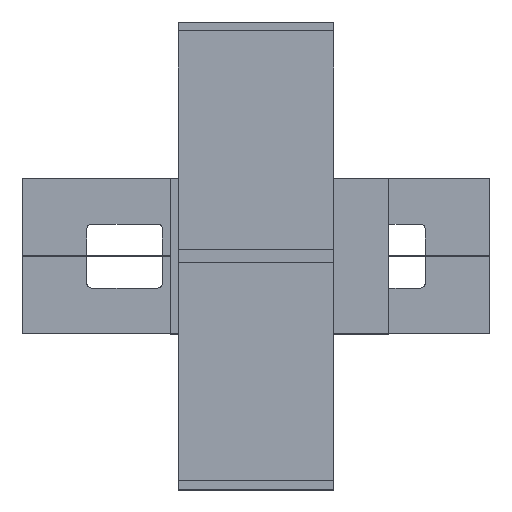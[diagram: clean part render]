
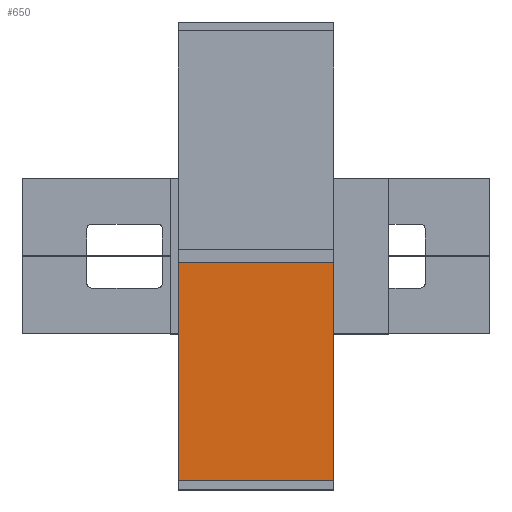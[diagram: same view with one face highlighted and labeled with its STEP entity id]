
A CAD part, top view. The second image highlights one B-rep face of the part: STEP entity #650.
In plain terms, the highlighted planar face has unit normal (0, 0, 1).
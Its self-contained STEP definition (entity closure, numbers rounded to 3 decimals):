
#650 = ADVANCED_FACE( '', ( #2353 ), #2354, .T. );
#2353 = FACE_OUTER_BOUND( '', #5457, .T. );
#2354 = PLANE( '', #5458 );
#5457 = EDGE_LOOP( '', ( #10102, #10103, #10104, #10105 ) );
#5458 = AXIS2_PLACEMENT_3D( '', #10106, #10107, #10108 );
#10102 = ORIENTED_EDGE( '', *, *, #22459, .T. );
#10103 = ORIENTED_EDGE( '', *, *, #22496, .T. );
#10104 = ORIENTED_EDGE( '', *, *, #22500, .T. );
#10105 = ORIENTED_EDGE( '', *, *, #22491, .T. );
#10106 = CARTESIAN_POINT( '', ( -55., -50., 39. ) );
#10107 = DIRECTION( '', ( 0., 0., 1. ) );
#10108 = DIRECTION( '', ( 1., 0., 0. ) );
#22459 = EDGE_CURVE( '', #26643, #26641, #26644, .T. );
#22491 = EDGE_CURVE( '', #26700, #26643, #26701, .T. );
#22496 = EDGE_CURVE( '', #26641, #26707, #26709, .T. );
#22500 = EDGE_CURVE( '', #26707, #26700, #26715, .T. );
#26641 = VERTEX_POINT( '', #33453 );
#26643 = VERTEX_POINT( '', #33456 );
#26644 = LINE( '', #33457, #33458 );
#26700 = VERTEX_POINT( '', #33534 );
#26701 = LINE( '', #33535, #33536 );
#26707 = VERTEX_POINT( '', #33544 );
#26709 = LINE( '', #33547, #33548 );
#26715 = LINE( '', #33556, #33557 );
#33453 = CARTESIAN_POINT( '', ( -55., -50., 39. ) );
#33456 = CARTESIAN_POINT( '', ( -55., 50., 39. ) );
#33457 = CARTESIAN_POINT( '', ( -55., 50., 39. ) );
#33458 = VECTOR( '', #45779, 1000. );
#33534 = CARTESIAN_POINT( '', ( 85., 50., 39. ) );
#33535 = CARTESIAN_POINT( '', ( 85., 50., 39. ) );
#33536 = VECTOR( '', #45833, 1000. );
#33544 = CARTESIAN_POINT( '', ( 85., -50., 39. ) );
#33547 = CARTESIAN_POINT( '', ( -55., -50., 39. ) );
#33548 = VECTOR( '', #45840, 1000. );
#33556 = CARTESIAN_POINT( '', ( 85., -50., 39. ) );
#33557 = VECTOR( '', #45846, 1000. );
#45779 = DIRECTION( '', ( 0., -1., 0. ) );
#45833 = DIRECTION( '', ( -1., 0., 0. ) );
#45840 = DIRECTION( '', ( 1., 0., 0. ) );
#45846 = DIRECTION( '', ( 0., 1., 0. ) );
